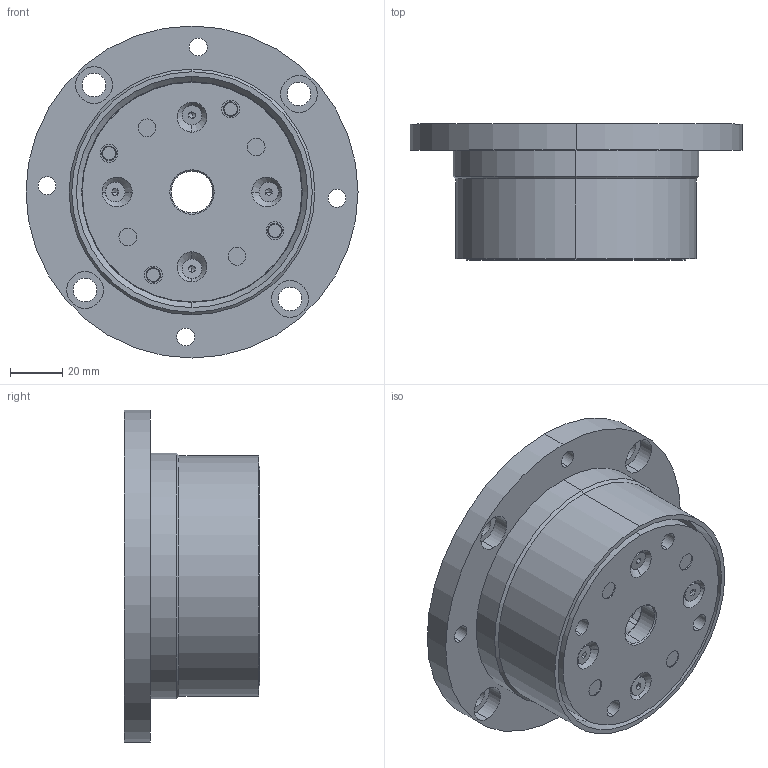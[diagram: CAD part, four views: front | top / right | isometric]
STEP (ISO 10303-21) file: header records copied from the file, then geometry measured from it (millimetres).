
FILE_DESCRIPTION (( 'STEP AP203' ), '1' );
FILE_NAME ('FB-100-84.STEP', '2024-08-08T13:57:37', ( '' ), ( '' ), 'SwSTEP 2.0', 'SolidWorks 2020', '' );
FILE_SCHEMA (( 'CONFIG_CONTROL_DESIGN' ));
Length unit declared in the file: millimetre
Products named in the file (1): FB-100-84
Bounding box: 127 x 52 x 127 mm (x, y, z)
Surface area: 67841.9 mm2 (no closed solid volume)
Topology: 0 solids, 29 shells, 283 faces, 790 edges, 525 vertices
Faces by surface type: plane 124, cylinder 98, cone 45, bspline 16
Entity records: 13742 total; most frequent: CARTESIAN_POINT 6642, DIRECTION 1417, ORIENTED_EDGE 1370, EDGE_CURVE 767, AXIS2_PLACEMENT_3D 542, VERTEX_POINT 525, EDGE_LOOP 364, LINE 333
